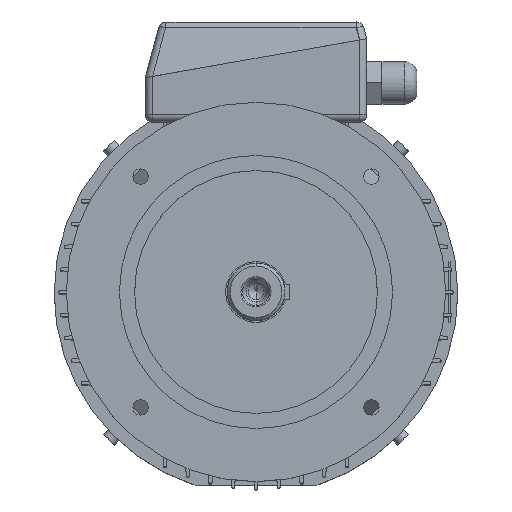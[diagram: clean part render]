
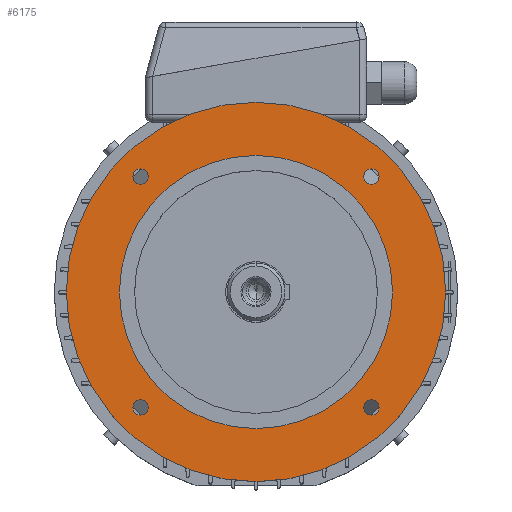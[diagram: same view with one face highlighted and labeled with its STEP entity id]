
A CAD part, top view. The second image highlights one B-rep face of the part: STEP entity #6175.
In plain terms, the highlighted planar face has unit normal (0, 0, 1).
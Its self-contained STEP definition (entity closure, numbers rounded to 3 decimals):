
#187 = VERTEX_POINT ( 'NONE', #7856 ) ;
#502 = EDGE_CURVE ( 'NONE', #9785, #187, #8022, .T. ) ;
#560 = CARTESIAN_POINT ( 'NONE',  ( 81.114, -76.014, 58. ) ) ;
#744 = CIRCLE ( 'NONE', #748, 5.1 ) ;
#748 = AXIS2_PLACEMENT_3D ( 'NONE', #749, #750, #751 ) ;
#749 = CARTESIAN_POINT ( 'NONE',  ( -76.014, -76.014, 58. ) ) ;
#750 = DIRECTION ( 'NONE',  ( 0., 0., 1. ) ) ;
#751 = DIRECTION ( 'NONE',  ( 1., 0., 0. ) ) ;
#1292 = CARTESIAN_POINT ( 'NONE',  ( 125., 0., 58. ) ) ;
#1654 = CIRCLE ( 'NONE', #1655, 90. ) ;
#1655 = AXIS2_PLACEMENT_3D ( 'NONE', #1656, #1660, #1661 ) ;
#1656 = CARTESIAN_POINT ( 'NONE',  ( 0., 0., 58. ) ) ;
#1660 = DIRECTION ( 'NONE',  ( 0., 0., 1. ) ) ;
#1661 = DIRECTION ( 'NONE',  ( 1., 0., 0. ) ) ;
#1734 = CIRCLE ( 'NONE', #1735, 90. ) ;
#1735 = AXIS2_PLACEMENT_3D ( 'NONE', #1744, #1745, #1746 ) ;
#1744 = CARTESIAN_POINT ( 'NONE',  ( 0., 0., 58. ) ) ;
#1745 = DIRECTION ( 'NONE',  ( 0., 0., 1. ) ) ;
#1746 = DIRECTION ( 'NONE',  ( 1., 0., 0. ) ) ;
#2390 = VERTEX_POINT ( 'NONE', #8921 ) ;
#3050 = EDGE_CURVE ( 'NONE', #2390, #10429, #9319, .T. ) ;
#3195 = VERTEX_POINT ( 'NONE', #9418 ) ;
#3496 = EDGE_CURVE ( 'NONE', #10429, #2390, #9548, .T. ) ;
#3627 = CIRCLE ( 'NONE', #3631, 5.1 ) ;
#3631 = AXIS2_PLACEMENT_3D ( 'NONE', #3632, #3633, #3634 ) ;
#3632 = CARTESIAN_POINT ( 'NONE',  ( -76.014, -76.014, 58. ) ) ;
#3633 = DIRECTION ( 'NONE',  ( 0., 0., 1. ) ) ;
#3634 = DIRECTION ( 'NONE',  ( 1., 0., 0. ) ) ;
#3778 = CARTESIAN_POINT ( 'NONE',  ( -70.914, -76.014, 58. ) ) ;
#3843 = ORIENTED_EDGE ( 'NONE', *, *, #7611, .F. ) ;
#3902 = CIRCLE ( 'NONE', #3903, 5.1 ) ;
#3903 = AXIS2_PLACEMENT_3D ( 'NONE', #3904, #3905, #3906 ) ;
#3904 = CARTESIAN_POINT ( 'NONE',  ( 76.014, -76.014, 58. ) ) ;
#3905 = DIRECTION ( 'NONE',  ( 0., 0., 1. ) ) ;
#3906 = DIRECTION ( 'NONE',  ( 1., 0., 0. ) ) ;
#3948 = EDGE_CURVE ( 'NONE', #5833, #12187, #9777, .T. ) ;
#4232 = EDGE_LOOP ( 'NONE', ( #11979, #9693 ) ) ;
#4336 = ORIENTED_EDGE ( 'NONE', *, *, #7478, .F. ) ;
#4399 = ORIENTED_EDGE ( 'NONE', *, *, #3948, .F. ) ;
#4900 = CARTESIAN_POINT ( 'NONE',  ( -81.114, -76.014, 58. ) ) ;
#5014 = VERTEX_POINT ( 'NONE', #10294 ) ;
#5038 = EDGE_CURVE ( 'NONE', #187, #9785, #10322, .T. ) ;
#5133 = ORIENTED_EDGE ( 'NONE', *, *, #5038, .F. ) ;
#5207 = CARTESIAN_POINT ( 'NONE',  ( -81.114, 76.014, 58. ) ) ;
#5371 = EDGE_LOOP ( 'NONE', ( #6548, #9534 ) ) ;
#5446 = CARTESIAN_POINT ( 'NONE',  ( 81.114, 76.014, 58. ) ) ;
#5481 = ORIENTED_EDGE ( 'NONE', *, *, #502, .F. ) ;
#5803 = VERTEX_POINT ( 'NONE', #11043 ) ;
#5833 = VERTEX_POINT ( 'NONE', #11091 ) ;
#6008 = EDGE_LOOP ( 'NONE', ( #3843, #4399 ) ) ;
#6028 = EDGE_CURVE ( 'NONE', #5014, #12895, #11536, .T. ) ;
#6098 = EDGE_LOOP ( 'NONE', ( #5133, #5481 ) ) ;
#6175 = ADVANCED_FACE ( 'NONE', ( #11949, #11950, #11951, #11952, #11953, #11954 ), #11963, .F. ) ;
#6389 = ORIENTED_EDGE ( 'NONE', *, *, #6028, .T. ) ;
#6548 = ORIENTED_EDGE ( 'NONE', *, *, #3496, .F. ) ;
#6820 = EDGE_CURVE ( 'NONE', #5803, #3195, #1654, .T. ) ;
#6858 = EDGE_CURVE ( 'NONE', #3195, #5803, #1734, .T. ) ;
#6868 = EDGE_LOOP ( 'NONE', ( #12472, #4336 ) ) ;
#7326 = ORIENTED_EDGE ( 'NONE', *, *, #10796, .T. ) ;
#7478 = EDGE_CURVE ( 'NONE', #9205, #7541, #3627, .T. ) ;
#7541 = VERTEX_POINT ( 'NONE', #3778 ) ;
#7611 = EDGE_CURVE ( 'NONE', #12187, #5833, #3902, .T. ) ;
#7856 = CARTESIAN_POINT ( 'NONE',  ( -70.914, 76.014, 58. ) ) ;
#8022 = CIRCLE ( 'NONE', #8023, 5.1 ) ;
#8023 = AXIS2_PLACEMENT_3D ( 'NONE', #8024, #8025, #8026 ) ;
#8024 = CARTESIAN_POINT ( 'NONE',  ( -76.014, 76.014, 58. ) ) ;
#8025 = DIRECTION ( 'NONE',  ( 0., 0., 1. ) ) ;
#8026 = DIRECTION ( 'NONE',  ( 1., 0., 0. ) ) ;
#8921 = CARTESIAN_POINT ( 'NONE',  ( 70.914, 76.014, 58. ) ) ;
#9205 = VERTEX_POINT ( 'NONE', #4900 ) ;
#9319 = CIRCLE ( 'NONE', #9320, 5.1 ) ;
#9320 = AXIS2_PLACEMENT_3D ( 'NONE', #9321, #9322, #9323 ) ;
#9321 = CARTESIAN_POINT ( 'NONE',  ( 76.014, 76.014, 58. ) ) ;
#9322 = DIRECTION ( 'NONE',  ( 0., 0., 1. ) ) ;
#9323 = DIRECTION ( 'NONE',  ( 1., 0., 0. ) ) ;
#9418 = CARTESIAN_POINT ( 'NONE',  ( -90., 0., 58. ) ) ;
#9471 = EDGE_LOOP ( 'NONE', ( #7326, #6389 ) ) ;
#9534 = ORIENTED_EDGE ( 'NONE', *, *, #3050, .F. ) ;
#9548 = CIRCLE ( 'NONE', #9549, 5.1 ) ;
#9549 = AXIS2_PLACEMENT_3D ( 'NONE', #9550, #9551, #9552 ) ;
#9550 = CARTESIAN_POINT ( 'NONE',  ( 76.014, 76.014, 58. ) ) ;
#9551 = DIRECTION ( 'NONE',  ( 0., 0., 1. ) ) ;
#9552 = DIRECTION ( 'NONE',  ( 1., 0., 0. ) ) ;
#9693 = ORIENTED_EDGE ( 'NONE', *, *, #6858, .F. ) ;
#9777 = CIRCLE ( 'NONE', #9778, 5.1 ) ;
#9778 = AXIS2_PLACEMENT_3D ( 'NONE', #9779, #9780, #9781 ) ;
#9779 = CARTESIAN_POINT ( 'NONE',  ( 76.014, -76.014, 58. ) ) ;
#9780 = DIRECTION ( 'NONE',  ( 0., 0., 1. ) ) ;
#9781 = DIRECTION ( 'NONE',  ( 1., 0., 0. ) ) ;
#9785 = VERTEX_POINT ( 'NONE', #5207 ) ;
#10294 = CARTESIAN_POINT ( 'NONE',  ( -125., 0., 58. ) ) ;
#10322 = CIRCLE ( 'NONE', #10323, 5.1 ) ;
#10323 = AXIS2_PLACEMENT_3D ( 'NONE', #10324, #10327, #10328 ) ;
#10324 = CARTESIAN_POINT ( 'NONE',  ( -76.014, 76.014, 58. ) ) ;
#10327 = DIRECTION ( 'NONE',  ( 0., 0., 1. ) ) ;
#10328 = DIRECTION ( 'NONE',  ( 1., 0., 0. ) ) ;
#10429 = VERTEX_POINT ( 'NONE', #5446 ) ;
#10796 = EDGE_CURVE ( 'NONE', #12895, #5014, #12030, .T. ) ;
#11043 = CARTESIAN_POINT ( 'NONE',  ( 90., 0., 58. ) ) ;
#11091 = CARTESIAN_POINT ( 'NONE',  ( 70.914, -76.014, 58. ) ) ;
#11536 = CIRCLE ( 'NONE', #11537, 125. ) ;
#11537 = AXIS2_PLACEMENT_3D ( 'NONE', #11548, #11549, #11550 ) ;
#11548 = CARTESIAN_POINT ( 'NONE',  ( 0., 0., 58. ) ) ;
#11549 = DIRECTION ( 'NONE',  ( 0., 0., 1. ) ) ;
#11550 = DIRECTION ( 'NONE',  ( 1., 0., 0. ) ) ;
#11949 = FACE_BOUND ( 'NONE', #6098, .T. ) ;
#11950 = FACE_BOUND ( 'NONE', #5371, .T. ) ;
#11951 = FACE_BOUND ( 'NONE', #6008, .T. ) ;
#11952 = FACE_BOUND ( 'NONE', #6868, .T. ) ;
#11953 = FACE_BOUND ( 'NONE', #4232, .T. ) ;
#11954 = FACE_OUTER_BOUND ( 'NONE', #9471, .T. ) ;
#11963 = PLANE ( 'NONE',  #11964 ) ;
#11964 = AXIS2_PLACEMENT_3D ( 'NONE', #11965, #11966, #11967 ) ;
#11965 = CARTESIAN_POINT ( 'NONE',  ( 0., 125., 58. ) ) ;
#11966 = DIRECTION ( 'NONE',  ( 0., 0., -1. ) ) ;
#11967 = DIRECTION ( 'NONE',  ( -1., 0., 0. ) ) ;
#11979 = ORIENTED_EDGE ( 'NONE', *, *, #6820, .F. ) ;
#12030 = CIRCLE ( 'NONE', #12031, 125. ) ;
#12031 = AXIS2_PLACEMENT_3D ( 'NONE', #12032, #12033, #12034 ) ;
#12032 = CARTESIAN_POINT ( 'NONE',  ( 0., 0., 58. ) ) ;
#12033 = DIRECTION ( 'NONE',  ( 0., 0., 1. ) ) ;
#12034 = DIRECTION ( 'NONE',  ( 1., 0., 0. ) ) ;
#12187 = VERTEX_POINT ( 'NONE', #560 ) ;
#12364 = EDGE_CURVE ( 'NONE', #7541, #9205, #744, .T. ) ;
#12472 = ORIENTED_EDGE ( 'NONE', *, *, #12364, .F. ) ;
#12895 = VERTEX_POINT ( 'NONE', #1292 ) ;
